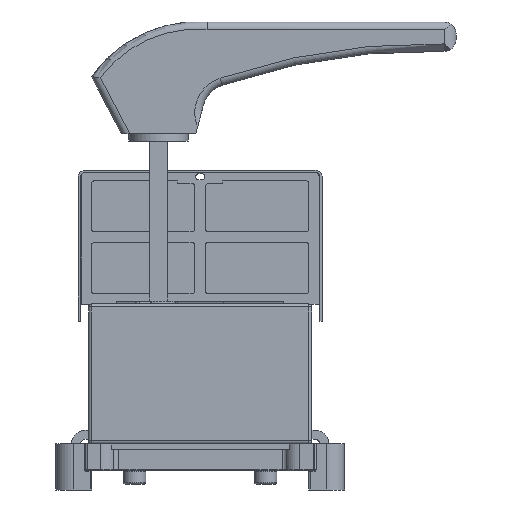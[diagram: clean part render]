
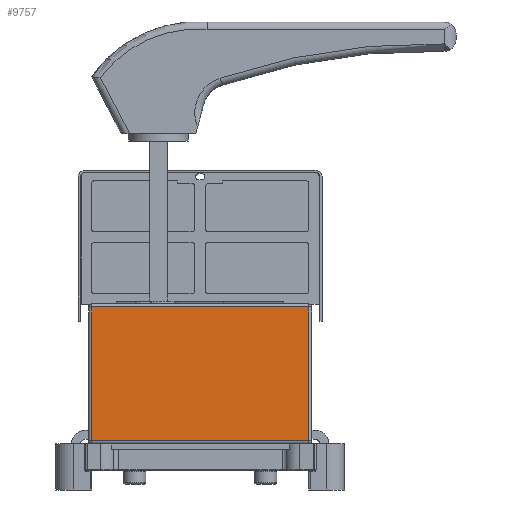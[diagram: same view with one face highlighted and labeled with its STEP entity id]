
A CAD part, left-side view. The second image highlights one B-rep face of the part: STEP entity #9757.
In plain terms, the highlighted planar face has unit normal (-1, 0, 0).
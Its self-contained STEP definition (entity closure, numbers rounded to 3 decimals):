
#2978=LINE('',#51771,#5798);
#2983=LINE('',#51792,#5803);
#2986=LINE('',#51815,#5806);
#2993=LINE('',#51825,#5813);
#5798=VECTOR('',#39849,1.);
#5803=VECTOR('',#39874,1.);
#5806=VECTOR('',#39903,1.);
#5813=VECTOR('',#39916,1.);
#6762=PLANE('',#31899);
#8177=FACE_OUTER_BOUND('',#12643,.T.);
#9757=ADVANCED_FACE('',(#8177),#6762,.F.);
#12643=EDGE_LOOP('',(#20232,#20233,#20234,#20235));
#20232=ORIENTED_EDGE('',*,*,#27903,.T.);
#20233=ORIENTED_EDGE('',*,*,#27885,.T.);
#20234=ORIENTED_EDGE('',*,*,#27896,.T.);
#20235=ORIENTED_EDGE('',*,*,#27874,.T.);
#23842=VERTEX_POINT('',#51757);
#23846=VERTEX_POINT('',#51768);
#23851=VERTEX_POINT('',#51785);
#23852=VERTEX_POINT('',#51789);
#27874=EDGE_CURVE('',#23846,#23842,#2978,.T.);
#27885=EDGE_CURVE('',#23852,#23851,#2983,.T.);
#27896=EDGE_CURVE('',#23851,#23846,#2986,.T.);
#27903=EDGE_CURVE('',#23842,#23852,#2993,.T.);
#31899=AXIS2_PLACEMENT_3D('',#51878,#39961,#39962);
#39849=DIRECTION('',(0.,1.,0.));
#39874=DIRECTION('',(0.,-1.,0.));
#39903=DIRECTION('',(0.,0.,1.));
#39916=DIRECTION('',(0.,0.,-1.));
#39961=DIRECTION('',(1.,0.,0.));
#39962=DIRECTION('',(0.,1.,0.));
#51757=CARTESIAN_POINT('',(-150.,73.,92.));
#51768=CARTESIAN_POINT('',(-150.,-73.,92.));
#51771=CARTESIAN_POINT('',(-150.,73.,92.));
#51785=CARTESIAN_POINT('',(-150.,-73.,2.));
#51789=CARTESIAN_POINT('',(-150.,73.,2.));
#51792=CARTESIAN_POINT('',(-150.,75.,2.));
#51815=CARTESIAN_POINT('',(-150.,-73.,94.));
#51825=CARTESIAN_POINT('',(-150.,73.,94.));
#51878=CARTESIAN_POINT('',(-150.,75.,94.));
